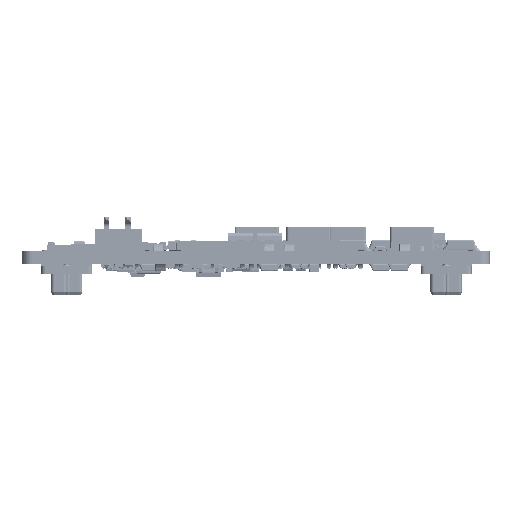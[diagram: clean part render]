
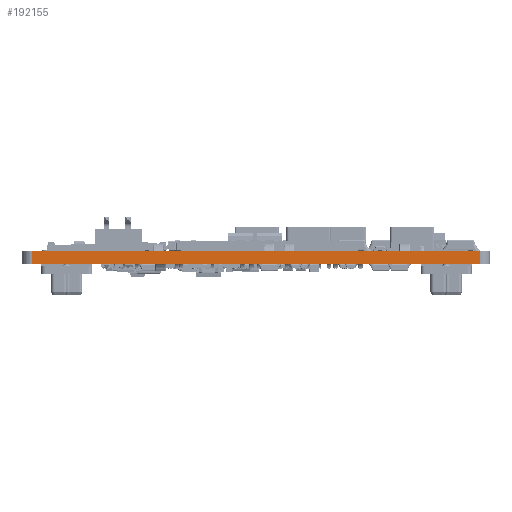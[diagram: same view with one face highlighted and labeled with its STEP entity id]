
A CAD part, left-side view. The second image highlights one B-rep face of the part: STEP entity #192155.
In plain terms, the highlighted planar face has unit normal (-1, 0, 0).
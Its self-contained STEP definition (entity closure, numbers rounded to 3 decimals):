
#1008 = EDGE_LOOP ( 'NONE', ( #167421, #129085, #23252, #23388 ) ) ;
#3318 = VERTEX_POINT ( 'NONE', #198381 ) ;
#18554 = CARTESIAN_POINT ( 'NONE',  ( 0., 0., -1.2 ) ) ;
#23252 = ORIENTED_EDGE ( 'NONE', *, *, #238638, .F. ) ;
#23388 = ORIENTED_EDGE ( 'NONE', *, *, #75532, .T. ) ;
#34108 = FACE_OUTER_BOUND ( 'NONE', #1008, .T. ) ;
#35519 = DIRECTION ( 'NONE',  ( 0., 1., 0. ) ) ;
#39447 = CARTESIAN_POINT ( 'NONE',  ( 0., 0., -53.8 ) ) ;
#57957 = CARTESIAN_POINT ( 'NONE',  ( 0., 1.6, 0. ) ) ;
#75532 = EDGE_CURVE ( 'NONE', #126731, #224338, #248231, .T. ) ;
#95437 = EDGE_CURVE ( 'NONE', #217176, #3318, #252213, .T. ) ;
#99305 = DIRECTION ( 'NONE',  ( 1., 0., 0. ) ) ;
#104699 = DIRECTION ( 'NONE',  ( 0., 0., 1. ) ) ;
#126731 = VERTEX_POINT ( 'NONE', #192475 ) ;
#129085 = ORIENTED_EDGE ( 'NONE', *, *, #95437, .T. ) ;
#146079 = PLANE ( 'NONE',  #249979 ) ;
#155361 = VECTOR ( 'NONE', #35519, 1000. ) ;
#163159 = DIRECTION ( 'NONE',  ( 0., 1., 0. ) ) ;
#164380 = LINE ( 'NONE', #226685, #240481 ) ;
#167421 = ORIENTED_EDGE ( 'NONE', *, *, #252852, .T. ) ;
#168028 = VECTOR ( 'NONE', #250977, 1000. ) ;
#171102 = VECTOR ( 'NONE', #104699, 1000. ) ;
#192155 = ADVANCED_FACE ( 'NONE', ( #34108 ), #146079, .F. ) ;
#192475 = CARTESIAN_POINT ( 'NONE',  ( 0., 1.6, -53.8 ) ) ;
#198381 = CARTESIAN_POINT ( 'NONE',  ( 0., 1.6, -1.2 ) ) ;
#209877 = CARTESIAN_POINT ( 'NONE',  ( 0., 1.6, -1.2 ) ) ;
#217176 = VERTEX_POINT ( 'NONE', #18554 ) ;
#224338 = VERTEX_POINT ( 'NONE', #39447 ) ;
#226685 = CARTESIAN_POINT ( 'NONE',  ( 0., 0., 0. ) ) ;
#229458 = LINE ( 'NONE', #57957, #171102 ) ;
#232453 = CARTESIAN_POINT ( 'NONE',  ( 0., 1.6, 0. ) ) ;
#238638 = EDGE_CURVE ( 'NONE', #126731, #3318, #229458, .T. ) ;
#240481 = VECTOR ( 'NONE', #246440, 1000. ) ;
#246440 = DIRECTION ( 'NONE',  ( 0., 0., 1. ) ) ;
#248231 = LINE ( 'NONE', #270922, #168028 ) ;
#249979 = AXIS2_PLACEMENT_3D ( 'NONE', #232453, #99305, #163159 ) ;
#250977 = DIRECTION ( 'NONE',  ( 0., -1., 0. ) ) ;
#252213 = LINE ( 'NONE', #209877, #155361 ) ;
#252852 = EDGE_CURVE ( 'NONE', #224338, #217176, #164380, .T. ) ;
#270922 = CARTESIAN_POINT ( 'NONE',  ( 0., 1.6, -53.8 ) ) ;
